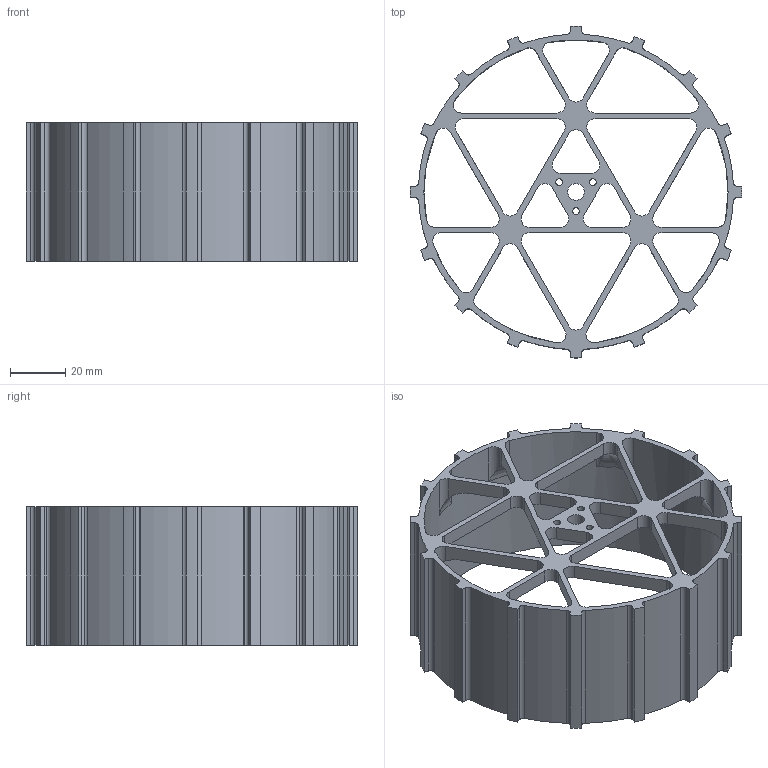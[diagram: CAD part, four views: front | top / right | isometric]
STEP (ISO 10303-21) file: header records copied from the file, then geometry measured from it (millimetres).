
FILE_DESCRIPTION (( 'STEP AP214' ), '1' );
FILE_NAME ('Laiemad_hambad.STEP', '2025-05-19T12:11:01', ( '' ), ( '' ), 'SwSTEP 2.0', 'SolidWorks 2024', '' );
FILE_SCHEMA (( 'AUTOMOTIVE_DESIGN' ));
Length unit declared in the file: millimetre
Products named in the file (1): Laiemad_hambad
Bounding box: 120 x 119.99 x 50 mm (x, y, z)
Volume: 54441.1 mm3; surface area: 49468 mm2
Topology: 1 solids, 1 shells, 238 faces, 729 edges, 479 vertices
Faces by surface type: cylinder 140, plane 71, torus 18, bspline 9
Entity records: 11217 total; most frequent: CARTESIAN_POINT 4505, ORIENTED_EDGE 1452, DIRECTION 1415, EDGE_CURVE 726, AXIS2_PLACEMENT_3D 528, VERTEX_POINT 479, VECTOR 359, LINE 359
